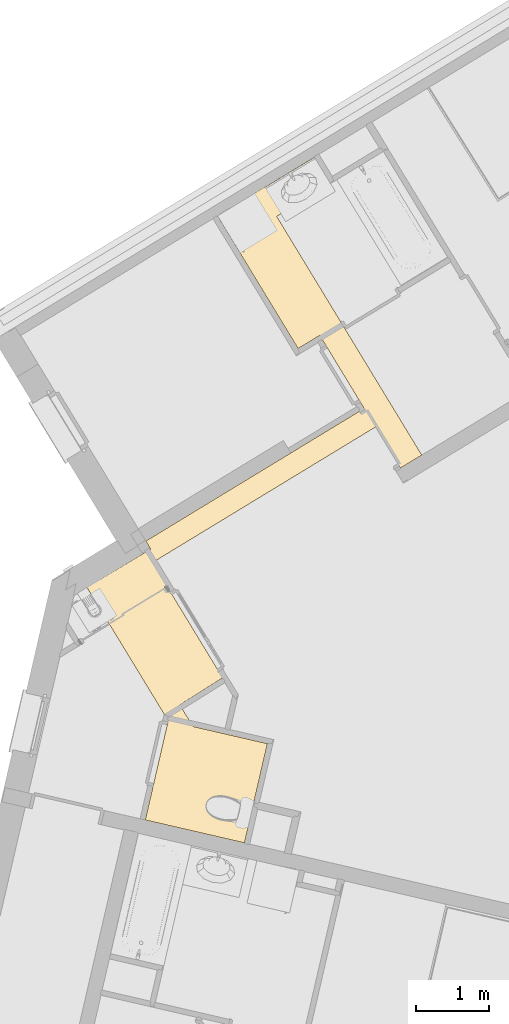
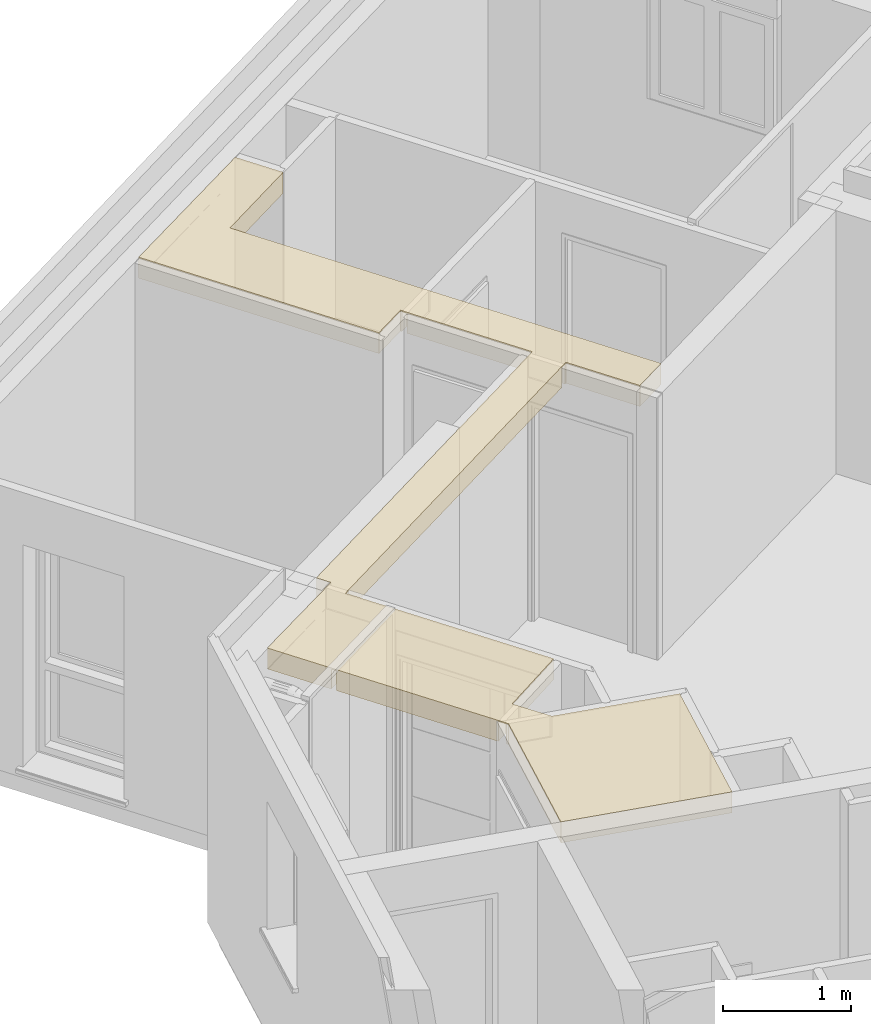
# One storey, part 64 of 90: 1 covering.
"""IFC2X3 building model written with IfcOpenShell, lengths in metres."""

import ifcopenshell
import ifcopenshell.guid

model = None  # the IFC model being written
_history = None  # IfcOwnerHistory: only IFC2X3 demands one
_inside = {}  # id of a spatial element -> (the spatial element, [elements in it])
_under = {}  # id of a project, library or spatial element -> (it, [spatial elements below it])
_declared = {}  # id of a project -> (the project, [libraries it declares])
_typed = {}  # id of a type object -> (the type object, [elements of that type])
_made_of = {}  # id of a material, layer set ... -> (it, [elements and type objects made of it])


def new_model(schema):
    """Start an empty IFC model of exactly this schema.

    Asked for "IFC4X3", IfcOpenShell would pick the latest addendum, in which some entities
    have other attributes; the version numbers below select the first issue.
    IFC2X3 requires an IfcOwnerHistory on every rooted entity: one is made here for all.
    """
    global model, _history
    if schema == "IFC4X3":
        model = ifcopenshell.file(schema_version=(4, 3, 0, 0))
    else:
        model = ifcopenshell.file(schema=schema)
    _inside.clear()
    _under.clear()
    _declared.clear()
    _typed.clear()
    _made_of.clear()
    _history = None
    if model.schema == "IFC2X3":
        org = make("IfcOrganization", Name="unknown")
        user = make(
            "IfcPersonAndOrganization",
            ThePerson=make("IfcPerson", FamilyName="unknown"),
            TheOrganization=org,
        )
        app = make(
            "IfcApplication",
            ApplicationDeveloper=org,
            Version="unknown",
            ApplicationFullName="unknown",
            ApplicationIdentifier="unknown",
        )
        _history = make(
            "IfcOwnerHistory",
            OwningUser=user,
            OwningApplication=app,
            ChangeAction="ADDED",
            CreationDate=0,
        )
    return model


def make(cls, **values):
    """One entity of the class cls with the attributes given. An attribute that is None is left unset."""
    return model.create_entity(
        cls, **{name: value for name, value in values.items() if value is not None}
    )


def entity(cls, *values):
    """Any entity or typed value of the class cls, its attributes in the order of the schema. None: left unset."""
    e = model.create_entity(cls)
    for i, value in enumerate(values):
        if value is not None:
            e[i] = value
    return e


def rooted(cls, **values):
    """An entity with a GlobalId (a new one), such as an element, a storey or a relation."""
    return make(cls, GlobalId=ifcopenshell.guid.new(), OwnerHistory=_history, **values)


def si_unit(unit_type, name, prefix=None):
    """IfcSIUnit, for example si_unit("LENGTHUNIT", "METRE", prefix="MILLI")."""
    return make("IfcSIUnit", UnitType=unit_type, Prefix=prefix, Name=name)


def converted_unit(unit_type, name, factor, base, dimensions=None, offset=None):
    """IfcConversionBasedUnit, such as the inch: factor (a typed value) times the base unit."""
    return make(
        "IfcConversionBasedUnit"
        if offset is None
        else "IfcConversionBasedUnitWithOffset",
        ConversionOffset=offset,
        Dimensions=None
        if dimensions is None
        else entity("IfcDimensionalExponents", *dimensions),
        UnitType=unit_type,
        Name=name,
        ConversionFactor=make(
            "IfcMeasureWithUnit", ValueComponent=factor, UnitComponent=base
        ),
    )


def derived_unit(unit_type, elements):
    """IfcDerivedUnit: a product of units, each with its exponent."""
    return make(
        "IfcDerivedUnit",
        Elements=[
            make("IfcDerivedUnitElement", Unit=unit, Exponent=power)
            for unit, power in elements
        ],
        UnitType=unit_type,
    )


def money_unit(currency):
    """IfcMonetaryUnit."""
    return make("IfcMonetaryUnit", Currency=currency)


def assignment(units):
    """IfcUnitAssignment: the units of a project."""
    return None if units is None else make("IfcUnitAssignment", Units=units)


def point(xyz):
    """IfcCartesianPoint."""
    return None if xyz is None else make("IfcCartesianPoint", Coordinates=xyz)


def direction(xyz):
    """IfcDirection."""
    return None if xyz is None else make("IfcDirection", DirectionRatios=xyz)


def frame(location, z_axis=None, x_axis=None):
    """IfcAxis2Placement3D, a coordinate frame: its origin and axes. An axis left out is left unset."""
    return make(
        "IfcAxis2Placement3D",
        Location=point(location),
        Axis=direction(z_axis),
        RefDirection=direction(x_axis),
    )


def origin_with_axes():
    """The frame at (0, 0, 0) with the z axis (0, 0, 1) and the x axis (1, 0, 0) written out."""
    return frame((0.0, 0.0, 0.0), z_axis=(0.0, 0.0, 1.0), x_axis=(1.0, 0.0, 0.0))


def place(relative_to, where):
    """IfcLocalPlacement: puts the frame where relative to a parent placement (None: the world)."""
    return make(
        "IfcLocalPlacement", PlacementRelTo=relative_to, RelativePlacement=where
    )


def context(
    kind, dimensions, precision=None, world=None, true_north=None, identifier=None
):
    """IfcGeometricRepresentationContext, for example the 3D "Model" context."""
    return make(
        "IfcGeometricRepresentationContext",
        ContextIdentifier=identifier,
        ContextType=kind,
        CoordinateSpaceDimension=dimensions,
        Precision=precision,
        WorldCoordinateSystem=world,
        TrueNorth=true_north,
    )


def subcontext(parent, identifier, kind, view, scale=None):
    """IfcGeometricRepresentationSubContext, for example "Body" below "Model"."""
    return make(
        "IfcGeometricRepresentationSubContext",
        ContextIdentifier=identifier,
        ContextType=kind,
        ParentContext=parent,
        TargetScale=scale,
        TargetView=view,
    )


def project(units=None, contexts=None):
    """IfcProject with its units and contexts."""
    return rooted(
        "IfcProject",
        Name="project",
        RepresentationContexts=contexts,
        UnitsInContext=assignment(units),
    )


def spatial(cls, under=None, at=None, **own):
    """A site, building, storey or space (cls), placed at a placement, below another one or the project."""
    s = rooted(cls, ObjectPlacement=at, **own)
    if under is not None:
        _under.setdefault(under.id(), (under, []))[1].append(s)
    return s


def faces_of(points, faces, orient=None, outer=None):
    """IfcFace entities. A face is a list of loops; a loop is a list of indices into points, from 0.

    orient and outer hold one flag for each loop. By default every Orientation is true, the
    first loop of a face is its IfcFaceOuterBound and the others are IfcFaceBound.
    """
    made = []
    for i, loops in enumerate(faces):
        bounds = []
        for j, loop in enumerate(loops):
            is_outer = j == 0 if outer is None else outer[i][j]
            bounds.append(
                make(
                    "IfcFaceOuterBound" if is_outer else "IfcFaceBound",
                    Bound=make("IfcPolyLoop", Polygon=[points[k] for k in loop]),
                    Orientation=True if orient is None else orient[i][j],
                )
            )
        made.append(make("IfcFace", Bounds=bounds))
    return made


def faceted_brep(points, faces, orient=None, outer=None, voids=None):
    """IfcFacetedBrep: a solid bounded by flat faces; with voids (closed shells), ...WithVoids."""
    shared = [point(p) for p in points]
    hull = make("IfcClosedShell", CfsFaces=faces_of(shared, faces, orient, outer))
    if voids is None:
        return make("IfcFacetedBrep", Outer=hull)
    return make(
        "IfcFacetedBrepWithVoids",
        Outer=hull,
        Voids=[
            make(cls, CfsFaces=faces_of(shared, fs, o, b)) for cls, fs, o, b in voids
        ],
    )


def shape(context_of_items, identifier, shape_type, items):
    """IfcShapeRepresentation: the items that make up one representation, for example the "Body"."""
    return make(
        "IfcShapeRepresentation",
        ContextOfItems=context_of_items,
        RepresentationIdentifier=identifier,
        RepresentationType=shape_type,
        Items=items,
    )


def material(Name=None, Category=None):
    """IfcMaterial."""
    return make("IfcMaterial", Name=Name, Category=Category)


def made_of(thing, what):
    """Note that an element or type object is made of a material, layer set ...; save() writes the relation."""
    if what is not None:
        _made_of.setdefault(what.id(), (what, []))[1].append(thing)
    return thing


def type_object(cls, material=None, **own):
    """A type object (cls), such as IfcWallType, which elements share."""
    return made_of(rooted(cls, **own), material)


def element(
    cls,
    number,
    at=None,
    inside=None,
    cuts=None,
    type_object=None,
    material=None,
    context=None,
    identifier="Body",
    shape_type=None,
    held_by="IfcProductDefinitionShape",
    body=None,
    shapes=None,
    **own,
):
    """One element of the class cls, such as IfcWall. Its Tag is "e" and its number.

    at: its placement. inside: the storey or other place that contains it. cuts: it is an
    opening in that element (IfcRelVoidsElement). A single representation is given by context,
    identifier, shape_type and body (its items); several are given by shapes. held_by: the class
    of the entity that holds the representations. save() writes the other relations.
    """
    e = rooted(cls, Tag="e%d" % number, ObjectPlacement=at, **own)
    if body is not None:
        shapes = [shape(context, identifier, shape_type, body)]
    if shapes is not None:
        e.Representation = make(held_by, Representations=shapes)
    if inside is not None:
        _inside.setdefault(inside.id(), (inside, []))[1].append(e)
    if cuts is not None:
        rooted(
            "IfcRelVoidsElement", RelatingBuildingElement=cuts, RelatedOpeningElement=e
        )
    if type_object is not None:
        _typed.setdefault(type_object.id(), (type_object, []))[1].append(e)
    return made_of(e, material)


def aggregate(whole, parts):
    """IfcRelAggregates: a whole, such as a stair, and the parts it consists of."""
    return rooted("IfcRelAggregates", RelatingObject=whole, RelatedObjects=parts)


def save(model, path):
    """Write the relations noted so far, then the file.

    IfcRelAggregates (storeys below a building ...), IfcRelContainedInSpatialStructure (elements
    in a storey), IfcRelDefinesByType, IfcRelAssociatesMaterial and IfcRelDeclares: one each for
    every whole, place, type object, material and project.
    """
    for whole, parts in _under.values():
        aggregate(whole, parts)
    for where, things in _inside.values():
        rooted(
            "IfcRelContainedInSpatialStructure",
            RelatedElements=things,
            RelatingStructure=where,
        )
    for kind, things in _typed.values():
        rooted("IfcRelDefinesByType", RelatedObjects=things, RelatingType=kind)
    for what, things in _made_of.values():
        rooted("IfcRelAssociatesMaterial", RelatedObjects=things, RelatingMaterial=what)
    for by, libraries in _declared.values():
        rooted("IfcRelDeclares", RelatingContext=by, RelatedDefinitions=libraries)
    model.write(path)


model = new_model("IFC2X3")

# Units and contexts
model_context = context("Model", 3, precision=1e-05, world=origin_with_axes(), true_north=direction((0.0, 1.0)))
body_context = subcontext(model_context, "Body", "Model", "MODEL_VIEW")
ifc_project = project(units=[si_unit("LENGTHUNIT", "METRE"), si_unit("AREAUNIT", "SQUARE_METRE"), si_unit("VOLUMEUNIT", "CUBIC_METRE"), converted_unit("PLANEANGLEUNIT", "DEGREE", entity("IfcPlaneAngleMeasure", 0.0174532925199), si_unit("PLANEANGLEUNIT", "RADIAN"), dimensions=[0, 0, 0, 0, 0, 0, 0]), si_unit("SOLIDANGLEUNIT", "STERADIAN"), money_unit("EUR"), converted_unit("TIMEUNIT", "Year", entity("IfcTimeMeasure", 31556926.0), si_unit("TIMEUNIT", "SECOND"), dimensions=[0, 0, 1, 0, 0, 0, 0]), si_unit("MASSUNIT", "GRAM", prefix="KILO"), si_unit("THERMODYNAMICTEMPERATUREUNIT", "DEGREE_CELSIUS"), si_unit("LUMINOUSINTENSITYUNIT", "LUMEN"), si_unit("ENERGYUNIT", "JOULE", prefix="MEGA"), derived_unit("THERMALCONDUCTANCEUNIT", [(si_unit("POWERUNIT", "WATT"), 1), (si_unit("LENGTHUNIT", "METRE"), -1), (si_unit("THERMODYNAMICTEMPERATUREUNIT", "KELVIN"), -1)]), derived_unit("SPECIFICHEATCAPACITYUNIT", [(si_unit("ENERGYUNIT", "JOULE"), 1), (si_unit("MASSUNIT", "GRAM", prefix="KILO"), -1), (si_unit("THERMODYNAMICTEMPERATUREUNIT", "KELVIN"), -1)]), derived_unit("MASSDENSITYUNIT", [(si_unit("MASSUNIT", "GRAM", prefix="KILO"), 1), (si_unit("VOLUMEUNIT", "CUBIC_METRE"), -1)])], contexts=[model_context])

# Site, building, storey
site_placement = place(None, origin_with_axes())
site = spatial("IfcSite", under=ifc_project, at=site_placement, Name="Site", CompositionType="ELEMENT")
building_placement = place(site_placement, origin_with_axes())
building = spatial("IfcBuilding", under=site, at=building_placement, Name="Bâtiment", CompositionType="ELEMENT")
storey_placement = place(building_placement, frame((0.0, 0.0, 2.72), z_axis=(0.0, 0.0, 1.0), x_axis=(1.0, 0.0, 0.0)))
storey = spatial("IfcBuildingStorey", under=building, at=storey_placement, Name="R+1", CompositionType="ELEMENT", Elevation=2.72)

# Covering
ifc_material = material(Name="Finition int - Plaque de plâtre")
covering_type = type_object("IfcCoveringType", Name="Finition int - Plaque de plâtre 200", PredefinedType="CEILING")
covering_placement = place(storey_placement, frame((-6.36949290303, 17.5383064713, 2.51), z_axis=(0.0, 0.0, 1.0), x_axis=(1.0, 0.0, 0.0)))
element("IfcCovering", 1, at=covering_placement, inside=storey, type_object=covering_type, material=ifc_material, Name="Dalle_003", PredefinedType="CEILING", context=body_context, shape_type="Brep", body=[
    faceted_brep([(1.13202051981, -0.036435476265, -0.01), (1.10708997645, 0.00458242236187, -0.01), (1.10708997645, 0.00458242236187, -0.2), (0.90247838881, 0.341227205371, -0.2), (0.90247838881, 0.341227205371, 0.0), (1.86661794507, -1.24505906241, 0.0), (1.86661794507, -1.24505906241, -0.2), (1.13202051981, -0.036435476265, -0.2), (0.29691052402, -0.487842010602, -0.01), (0.321865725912, -0.528844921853, -0.01), (0.29691052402, -0.487842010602, -0.2), (0.0, 0.0, -0.2), (0.816488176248, 0.488481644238, -0.2), (0.905041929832, 0.342785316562, -0.2), (0.905041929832, 0.342785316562, -0.01), (0.946059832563, 0.367715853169, -0.01), (0.946059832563, 0.367715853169, -0.2), (3.91628467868, 2.17300803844, -0.2), (3.91628467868, 2.17300803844, -0.01), (3.95730258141, 2.19793857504, -0.01), (3.95730258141, 2.19793857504, -0.2), (3.96841171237, 2.20469066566, -0.2), (3.96841171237, 2.20469066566, 0.0), (0.809898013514, 0.63602422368, 0.0), (0.877418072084, 0.524934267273, 0.0), (0.0, 0.0, 0.0), (1.11757132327, -1.83623751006, 0.0), (0.802744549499, -3.20037970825, 0.0), (2.16688688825, -3.51520648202, 0.0), (2.48171366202, -2.15106428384, 0.0), (1.46329734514, -1.91602663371, 0.0), (1.27563839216, -1.61770868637, 0.0), (4.31120575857, 1.64069585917, 0.0), (4.60548635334, 1.81955846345, 0.0), (2.61000400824, 5.10269961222, 0.0), (3.34997076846, 5.55244899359, 0.0), (3.12796163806, 5.91771786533, 0.0), (1.79263219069, 5.11450173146, 0.0), (2.90475492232, 3.28474088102, 0.0), (3.20375346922, 3.46647122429, 0.0), (3.24054660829, 3.4022376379, 0.0), (3.81259475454, 2.4610539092, 0.0), (1.27563839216, -1.61770868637, -0.2), (1.0721800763, -1.76165693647, -0.2), (0.321865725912, -0.528844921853, -0.2), (1.2809040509, -1.62607940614, -0.2), (1.07356356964, -1.75566226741, -0.2), (1.0721800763, -1.76165693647, -0.01), (1.10812436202, -1.82071557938, -0.01), (1.10812436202, -1.82071557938, -0.2), (1.11757132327, -1.83623751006, -0.2), (0.857680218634, 0.513125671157, -0.01), (0.816488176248, 0.488481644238, -0.01), (0.877418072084, 0.524934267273, -0.2), (0.857680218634, 0.513125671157, -0.2), (0.809898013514, 0.63602422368, -0.2), (3.76046788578, 2.42937136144, -0.2), (3.76046787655, 2.42937137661, -0.01), (3.80148577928, 2.45430191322, -0.01), (3.80148578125, 2.45430190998, -0.2), (3.81259475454, 2.4610539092, -0.2), (3.24054660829, 3.4022376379, -0.2), (3.23408297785, 3.41352186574, -0.2), (3.52807504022, 3.59220928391, -0.2), (4.60548635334, 1.81955846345, -0.2), (4.31120575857, 1.64069585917, -0.2), (0.802744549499, -3.20037970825, -0.2), (2.16688688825, -3.51520648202, -0.2), (2.48171366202, -2.15106428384, -0.2), (1.46329734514, -1.91602663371, -0.2), (1.3064625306, -1.66670924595, -0.01), (1.2809040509, -1.62607940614, -0.01), (1.45347932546, -1.90041911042, -0.2), (1.45347932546, -1.90041911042, -0.01), (1.41722799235, -1.8427910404, -0.01), (1.41722799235, -1.8427910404, -0.2), (1.3064625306, -1.66670924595, -0.2), (3.52807503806, 3.5922092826, -0.01), (3.5031444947, 3.63322718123, -0.01), (3.50314449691, 3.63322718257, -0.2), (2.61000400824, 5.10269961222, -0.2), (3.34997076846, 5.55244899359, -0.2), (3.12796163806, 5.91771786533, -0.2), (1.79263219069, 5.11450173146, -0.2), (2.90475492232, 3.28474088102, -0.2), (3.20375346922, 3.46647122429, -0.2), (3.21021715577, 3.45518689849, -0.01), (3.23408297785, 3.41352186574, -0.01), (3.21021715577, 3.45518689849, -0.2), (1.07356356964, -1.75566226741, -0.01), (1.13057451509, -1.77663506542, -0.01), (1.13057451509, -1.77663506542, -0.2)], [[[0, 1, 2, 3, 4, 5, 6, 7]], [[8, 1, 0, 9]], [[10, 2, 1, 8]], [[3, 2, 10, 11, 12, 13]], [[3, 13, 14, 15, 16, 17, 18, 19, 20, 21, 22, 4]], [[23, 24, 25, 26, 27, 28, 29, 30, 31, 5, 4, 22, 32, 33, 34, 35, 36, 37, 38, 39, 40, 41]], [[5, 31, 42, 6]], [[43, 44, 7, 6, 42, 45, 46]], [[9, 0, 7, 44]], [[8, 9, 44, 43, 47, 48, 49, 50, 26, 25, 11, 10]], [[51, 52, 12, 11, 25, 24, 53, 54]], [[52, 14, 13, 12]], [[51, 15, 14, 52]], [[54, 16, 15, 51]], [[17, 16, 54, 53, 55, 56]], [[57, 18, 17, 56]], [[58, 19, 18, 57]], [[59, 20, 19, 58]], [[21, 20, 59, 60, 61, 62, 63, 64, 65]], [[32, 22, 21, 65]], [[24, 23, 55, 53]], [[27, 26, 50, 66]], [[28, 27, 66, 67]], [[29, 28, 67, 68]], [[30, 29, 68, 69]], [[70, 71, 45, 42, 31, 30, 69, 72, 73, 74, 75, 76]], [[33, 32, 65, 64]], [[77, 78, 79, 80, 34, 33, 64, 63]], [[35, 34, 80, 81]], [[36, 35, 81, 82]], [[37, 36, 82, 83]], [[38, 37, 83, 84]], [[39, 38, 84, 85]], [[86, 87, 62, 61, 40, 39, 85, 88]], [[41, 40, 61, 60]], [[58, 57, 56, 55, 23, 41, 60, 59]], [[46, 45, 71, 89]], [[47, 43, 46, 89]], [[70, 90, 74, 73, 48, 47, 89, 71]], [[48, 73, 72, 49]], [[50, 49, 72, 69, 68, 67, 66]], [[87, 77, 63, 62]], [[74, 90, 91, 75]], [[75, 91, 76]], [[90, 70, 76, 91]], [[86, 78, 77, 87]], [[88, 79, 78, 86]], [[80, 79, 88, 85, 84, 83, 82, 81]]]),
])

save(model, "model.ifc")
